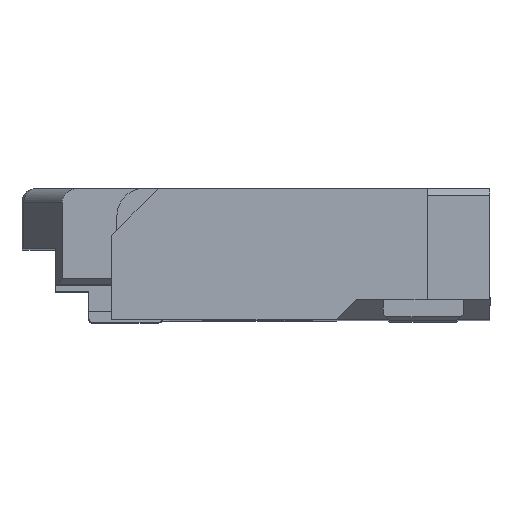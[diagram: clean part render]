
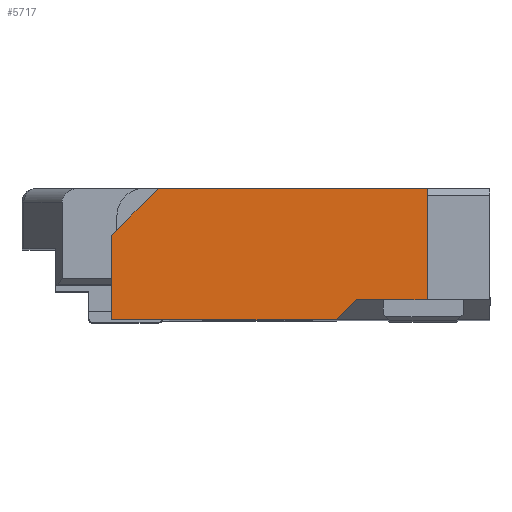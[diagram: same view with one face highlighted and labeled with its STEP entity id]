
A CAD part, top view. The second image highlights one B-rep face of the part: STEP entity #5717.
In plain terms, the highlighted planar face has unit normal (0, 0, 1).
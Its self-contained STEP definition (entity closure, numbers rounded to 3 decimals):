
#1218 = EDGE_CURVE ( 'NONE', #21415, #21299, #6755, .T. ) ;
#1222 = EDGE_CURVE ( 'NONE', #21411, #21319, #6761, .T. ) ;
#1223 = EDGE_CURVE ( 'NONE', #21403, #21415, #6765, .T. ) ;
#1262 = EDGE_CURVE ( 'NONE', #21367, #21319, #6843, .T. ) ;
#1264 = EDGE_CURVE ( 'NONE', #21403, #21411, #6847, .T. ) ;
#3751 = ORIENTED_EDGE ( 'NONE', *, *, #1264, .F. ) ;
#3752 = ORIENTED_EDGE ( 'NONE', *, *, #1223, .T. ) ;
#3753 = ORIENTED_EDGE ( 'NONE', *, *, #1218, .T. ) ;
#3754 = ORIENTED_EDGE ( 'NONE', *, *, #24063, .T. ) ;
#3755 = ORIENTED_EDGE ( 'NONE', *, *, #24091, .T. ) ;
#3756 = ORIENTED_EDGE ( 'NONE', *, *, #1262, .T. ) ;
#3757 = ORIENTED_EDGE ( 'NONE', *, *, #1222, .F. ) ;
#5158 = EDGE_LOOP ( 'NONE', ( #3751, #3752, #3753, #3754, #3755, #3756, #3757 ) ) ;
#5717 = ADVANCED_FACE ( 'NONE', ( #15673 ), #17196, .F. ) ;
#6755 = LINE ( 'NONE', #8948, #6758 ) ;
#6758 = VECTOR ( 'NONE', #8950, 1000. ) ;
#6761 = LINE ( 'NONE', #8949, #6766 ) ;
#6765 = LINE ( 'NONE', #8958, #6768 ) ;
#6766 = VECTOR ( 'NONE', #8957, 1000. ) ;
#6768 = VECTOR ( 'NONE', #8959, 1000. ) ;
#6843 = LINE ( 'NONE', #9035, #6846 ) ;
#6846 = VECTOR ( 'NONE', #9036, 1000. ) ;
#6847 = LINE ( 'NONE', #9039, #6850 ) ;
#6850 = VECTOR ( 'NONE', #9040, 1000. ) ;
#8212 = AXIS2_PLACEMENT_3D ( 'NONE', #17197, #17202, #17203 ) ;
#8948 = CARTESIAN_POINT ( 'NONE',  ( 0.52, 1., 3.35 ) ) ;
#8949 = CARTESIAN_POINT ( 'NONE',  ( 3., 0.17, 3.35 ) ) ;
#8950 = DIRECTION ( 'NONE',  ( -0.707, -0.707, 0. ) ) ;
#8957 = DIRECTION ( 'NONE',  ( -1., 0., 0. ) ) ;
#8958 = CARTESIAN_POINT ( 'NONE',  ( 1.2, 1., 3.35 ) ) ;
#8959 = DIRECTION ( 'NONE',  ( -1., 0., 0. ) ) ;
#9035 = CARTESIAN_POINT ( 'NONE',  ( 2., 0.17, 3.35 ) ) ;
#9036 = DIRECTION ( 'NONE',  ( 0.707, 0.707, 0. ) ) ;
#9039 = CARTESIAN_POINT ( 'NONE',  ( 2.53, 1., 3.35 ) ) ;
#9040 = DIRECTION ( 'NONE',  ( 0., -1., 0. ) ) ;
#15673 = FACE_OUTER_BOUND ( 'NONE', #5158, .T. ) ;
#15951 = LINE ( 'NONE', #19192, #15953 ) ;
#15953 = VECTOR ( 'NONE', #19193, 1000. ) ;
#15995 = LINE ( 'NONE', #19294, #15998 ) ;
#15998 = VECTOR ( 'NONE', #19295, 1000. ) ;
#17196 = PLANE ( 'NONE',  #8212 ) ;
#17197 = CARTESIAN_POINT ( 'NONE',  ( 3., 0.53, 3.35 ) ) ;
#17202 = DIRECTION ( 'NONE',  ( 0., 0., -1. ) ) ;
#17203 = DIRECTION ( 'NONE',  ( -1., 0., 0. ) ) ;
#18110 = CARTESIAN_POINT ( 'NONE',  ( 0.17, 0.02, 3.35 ) ) ;
#18237 = CARTESIAN_POINT ( 'NONE',  ( 0.17, 0.65, 3.35 ) ) ;
#18257 = CARTESIAN_POINT ( 'NONE',  ( 2., 0.17, 3.35 ) ) ;
#18305 = CARTESIAN_POINT ( 'NONE',  ( 1.85, 0.02, 3.35 ) ) ;
#18341 = CARTESIAN_POINT ( 'NONE',  ( 2.53, 1., 3.35 ) ) ;
#18349 = CARTESIAN_POINT ( 'NONE',  ( 2.53, 0.17, 3.35 ) ) ;
#18353 = CARTESIAN_POINT ( 'NONE',  ( 0.52, 1., 3.35 ) ) ;
#19192 = CARTESIAN_POINT ( 'NONE',  ( 0.17, 0.02, 3.35 ) ) ;
#19193 = DIRECTION ( 'NONE',  ( 0., -1., 0. ) ) ;
#19294 = CARTESIAN_POINT ( 'NONE',  ( 0.17, 0.02, 3.35 ) ) ;
#19295 = DIRECTION ( 'NONE',  ( 1., 0., 0. ) ) ;
#21172 = VERTEX_POINT ( 'NONE', #18110 ) ;
#21299 = VERTEX_POINT ( 'NONE', #18237 ) ;
#21319 = VERTEX_POINT ( 'NONE', #18257 ) ;
#21367 = VERTEX_POINT ( 'NONE', #18305 ) ;
#21403 = VERTEX_POINT ( 'NONE', #18341 ) ;
#21411 = VERTEX_POINT ( 'NONE', #18349 ) ;
#21415 = VERTEX_POINT ( 'NONE', #18353 ) ;
#24063 = EDGE_CURVE ( 'NONE', #21299, #21172, #15951, .T. ) ;
#24091 = EDGE_CURVE ( 'NONE', #21172, #21367, #15995, .T. ) ;
